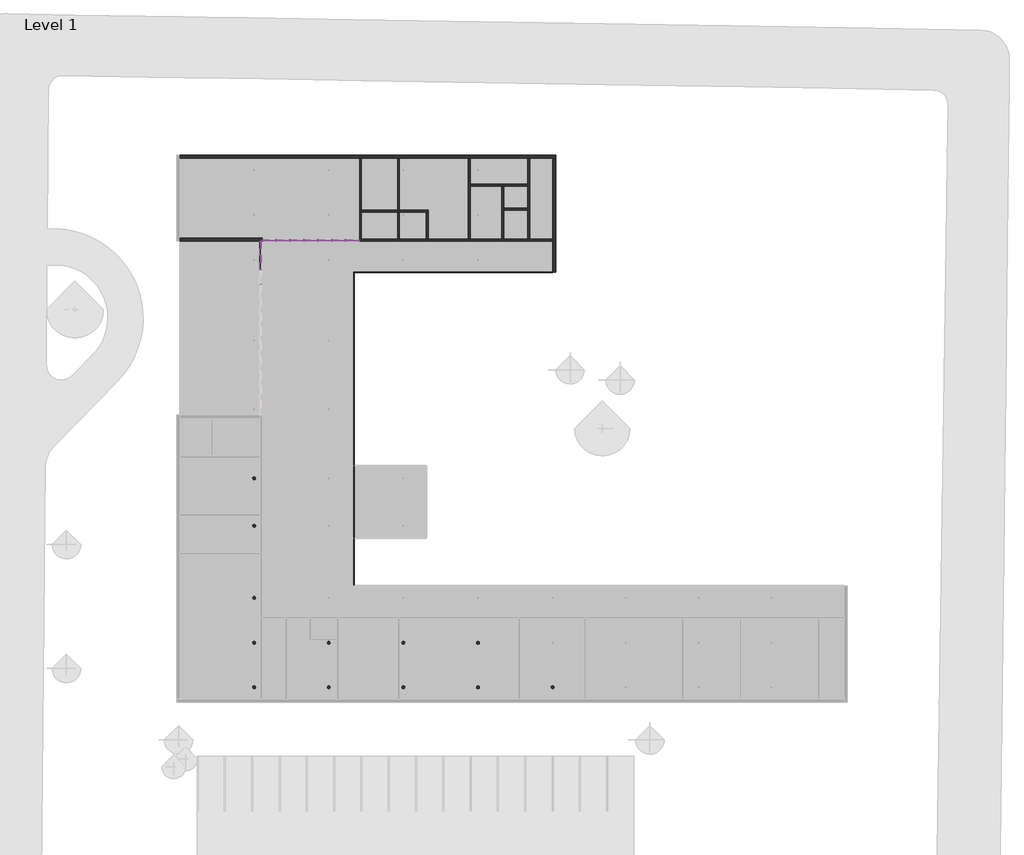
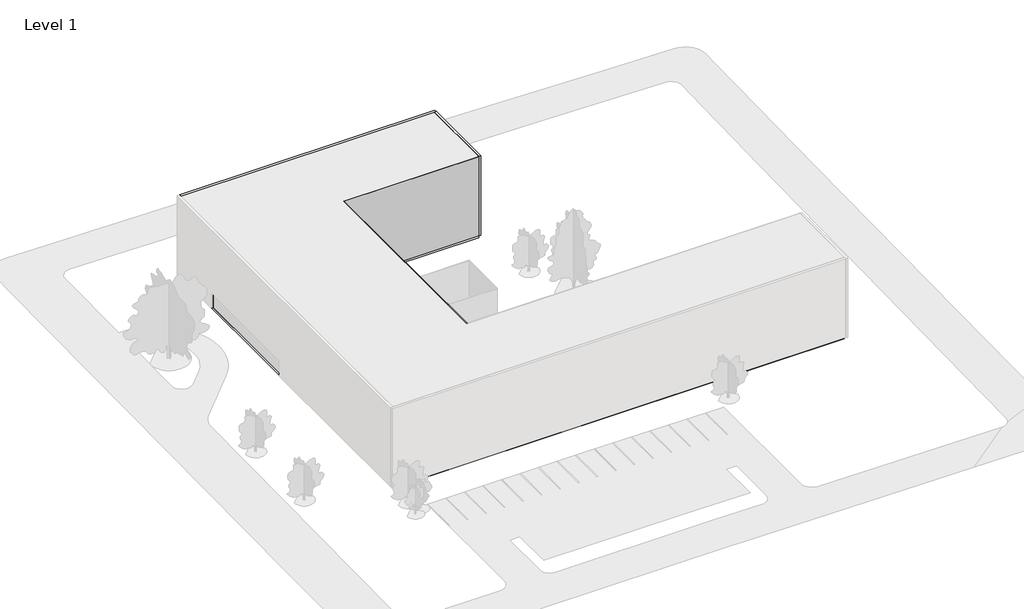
# One storey, part 2 of 3: 51 members, 20 plates, 13 walls, 12 columns, 1 slab.
"""IFC4 building model written with IfcOpenShell, lengths in millimetres."""

from ifc_helpers import new_model, si_unit, frame, origin, origin_with_axes, place, context, project, spatial, polyline, outline, extrude, faceted_brep, transform, mapped, element, save
from components import m_concrete_round_column_300mm_df790aaa, rectangular_mullion_50mm_x_150mm_6225e4e3, rectangular_mullion_50mm_x_150mm_163d5e45, rectangular_mullion_50mm_x_150mm_770ce294, rectangular_mullion_50mm_x_150mm_662c37b1, rectangular_mullion_50mm_x_150mm_758487db, rectangular_mullion_50mm_x_150mm_08a56cfe, rectangular_mullion_50mm_x_150mm_59c12ec9, rectangular_mullion_50mm_x_150mm_5efacfcf, rectangular_mullion_50mm_x_150mm_84fc3287, rectangular_mullion_50mm_x_150mm_b2cdd733, rectangular_mullion_50mm_x_150mm_142f5ab9, rectangular_mullion_50mm_x_150mm_39b046be, system_panel_glazed_2efde036, system_panel_glazed_952163be, system_panel_glazed_99e3e085, system_panel_glazed_d6c32529, system_panel_glazed_4e1d9d04, system_panel_glazed_46d9e1d9, system_panel_glazed_d581efc4, system_panel_glazed_ecd7ada4, system_panel_glazed_837bc370, system_panel_glazed_bcf29336

model = new_model("IFC4")

# Units and contexts
model_context = context("Model", 3, world=origin())
ifc_project = project(units=[si_unit("LENGTHUNIT", "METRE", prefix="MILLI")], contexts=[model_context])

# Site, building, storey
site = spatial("IfcSite", under=ifc_project)
building = spatial("IfcBuilding", under=site)
storey = spatial("IfcBuildingStorey", under=building, Name="Level 1", Elevation=0.0)

# Columns
placement = place(None, origin())
m_concrete_round_column_300mm_shape = m_concrete_round_column_300mm_df790aaa(model_context)
element("IfcColumn", 1, ObjectType="M_Concrete-Round-Column : 300mm", at=placement, inside=storey, context=model_context, shape_type="MappedRepresentation", body=[
    mapped(m_concrete_round_column_300mm_shape, transform((-2539.0909489, -1309.4607941, 0.0), x_axis=(-1.0, 0.0, 0.0), y_axis=(0.0, -1.0, 0.0), z_axis=(0.0, 0.0, 1.0))),
])
element("IfcColumn", 2, ObjectType="M_Concrete-Round-Column : 300mm", at=placement, inside=storey, context=model_context, shape_type="MappedRepresentation", body=[
    mapped(m_concrete_round_column_300mm_shape, transform((-2539.0909489, -6063.8611817, 0.0), x_axis=(-1.0, 0.0, 0.0), y_axis=(0.0, -1.0, 0.0), z_axis=(0.0, 0.0, 1.0))),
])
element("IfcColumn", 3, ObjectType="M_Concrete-Round-Column : 300mm", at=placement, inside=storey, context=model_context, shape_type="MappedRepresentation", body=[
    mapped(m_concrete_round_column_300mm_shape, transform((-2539.0909489, -17821.5310875, 0.0), x_axis=(-1.0, 0.0, 0.0), y_axis=(0.0, -1.0, 0.0), z_axis=(0.0, 0.0, 1.0))),
])
element("IfcColumn", 4, ObjectType="M_Concrete-Round-Column : 300mm", at=placement, inside=storey, context=model_context, shape_type="MappedRepresentation", body=[
    mapped(m_concrete_round_column_300mm_shape, transform((-2539.0909489, -13332.3615692, 0.0), x_axis=(-1.0, 0.0, 0.0), y_axis=(0.0, -1.0, 0.0), z_axis=(0.0, 0.0, 1.0))),
])
element("IfcColumn", 5, ObjectType="M_Concrete-Round-Column : 300mm", at=placement, inside=storey, context=model_context, shape_type="MappedRepresentation", body=[
    mapped(m_concrete_round_column_300mm_shape, transform((-2539.0909489, -22310.7006057, 0.0), x_axis=(-1.0, 0.0, 0.0), y_axis=(0.0, -1.0, 0.0), z_axis=(0.0, 0.0, 1.0))),
])
element("IfcColumn", 6, ObjectType="M_Concrete-Round-Column : 300mm", at=placement, inside=storey, context=model_context, shape_type="MappedRepresentation", body=[
    mapped(m_concrete_round_column_300mm_shape, transform((4948.6567657, -17821.5310875, 0.0), x_axis=(-1.0, 0.0, 0.0), y_axis=(0.0, -1.0, 0.0), z_axis=(0.0, 0.0, 1.0))),
])
element("IfcColumn", 7, ObjectType="M_Concrete-Round-Column : 300mm", at=placement, inside=storey, context=model_context, shape_type="MappedRepresentation", body=[
    mapped(m_concrete_round_column_300mm_shape, transform((4948.6567657, -22310.7006057, 0.0), x_axis=(-1.0, 0.0, 0.0), y_axis=(0.0, -1.0, 0.0), z_axis=(0.0, 0.0, 1.0))),
])
element("IfcColumn", 8, ObjectType="M_Concrete-Round-Column : 300mm", at=placement, inside=storey, context=model_context, shape_type="MappedRepresentation", body=[
    mapped(m_concrete_round_column_300mm_shape, transform((12436.4044804, -17821.5310875, 0.0), x_axis=(-1.0, 0.0, 0.0), y_axis=(0.0, -1.0, 0.0), z_axis=(0.0, 0.0, 1.0))),
])
element("IfcColumn", 9, ObjectType="M_Concrete-Round-Column : 300mm", at=placement, inside=storey, context=model_context, shape_type="MappedRepresentation", body=[
    mapped(m_concrete_round_column_300mm_shape, transform((12436.4044804, -22310.7006057, 0.0), x_axis=(-1.0, 0.0, 0.0), y_axis=(0.0, -1.0, 0.0), z_axis=(0.0, 0.0, 1.0))),
])
element("IfcColumn", 10, ObjectType="M_Concrete-Round-Column : 300mm", at=placement, inside=storey, context=model_context, shape_type="MappedRepresentation", body=[
    mapped(m_concrete_round_column_300mm_shape, transform((19924.152195, -17821.5310875, 0.0), x_axis=(-1.0, 0.0, 0.0), y_axis=(0.0, -1.0, 0.0), z_axis=(0.0, 0.0, 1.0))),
])
element("IfcColumn", 11, ObjectType="M_Concrete-Round-Column : 300mm", at=placement, inside=storey, context=model_context, shape_type="MappedRepresentation", body=[
    mapped(m_concrete_round_column_300mm_shape, transform((19924.152195, -22310.7006057, 0.0), x_axis=(-1.0, 0.0, 0.0), y_axis=(0.0, -1.0, 0.0), z_axis=(0.0, 0.0, 1.0))),
])
element("IfcColumn", 12, ObjectType="M_Concrete-Round-Column : 300mm", at=placement, inside=storey, context=model_context, shape_type="MappedRepresentation", body=[
    mapped(m_concrete_round_column_300mm_shape, transform((27411.8999097, -22310.7006057, 0.0), x_axis=(-1.0, 0.0, 0.0), y_axis=(0.0, -1.0, 0.0), z_axis=(0.0, 0.0, 1.0))),
])

# Members
rectangular_mullion_50mm_x_150mm_shape = rectangular_mullion_50mm_x_150mm_6225e4e3(model_context)
element("IfcMember", 13, ObjectType="Rectangular Mullion : 50mm x 150mm", at=placement, inside=storey, context=model_context, shape_type="MappedRepresentation", body=[
    mapped(rectangular_mullion_50mm_x_150mm_shape, transform((-1903.8386635, 21062.4133135, 0.0), x_axis=(0.0, -1.0, 0.0), y_axis=(-1.0, 0.0, 0.0), z_axis=(0.0, 0.0, -1.0))),
])
element("IfcMember", 14, ObjectType="Rectangular Mullion : 50mm x 150mm", at=placement, inside=storey, context=model_context, shape_type="MappedRepresentation", body=[
    mapped(rectangular_mullion_50mm_x_150mm_shape, transform((-1903.8386635, 19604.2466468, 0.0), x_axis=(0.0, -1.0, 0.0), y_axis=(-1.0, 0.0, 0.0), z_axis=(0.0, 0.0, -1.0))),
])
rectangular_mullion_50mm_x_150mm_2_shape = rectangular_mullion_50mm_x_150mm_163d5e45(model_context)
element("IfcMember", 15, ObjectType="Rectangular Mullion : 50mm x 150mm", at=placement, inside=storey, context=model_context, shape_type="MappedRepresentation", body=[
    mapped(rectangular_mullion_50mm_x_150mm_2_shape, transform((-1903.8386635, 21062.4133135, 2400.0), x_axis=(0.0, -1.0, 0.0), y_axis=(-1.0, 0.0, 0.0), z_axis=(0.0, 0.0, -1.0))),
])
element("IfcMember", 16, ObjectType="Rectangular Mullion : 50mm x 150mm", at=placement, inside=storey, context=model_context, shape_type="MappedRepresentation", body=[
    mapped(rectangular_mullion_50mm_x_150mm_2_shape, transform((-1903.8386635, 19604.2466468, 2400.0), x_axis=(0.0, -1.0, 0.0), y_axis=(-1.0, 0.0, 0.0), z_axis=(0.0, 0.0, -1.0))),
])
element("IfcMember", 17, ObjectType="Rectangular Mullion : 50mm x 150mm", at=placement, inside=storey, context=model_context, shape_type="MappedRepresentation", body=[
    mapped(rectangular_mullion_50mm_x_150mm_2_shape, transform((-1903.8386635, 18146.0799802, 2400.0), x_axis=(0.0, -1.0, 0.0), y_axis=(-1.0, 0.0, 0.0), z_axis=(0.0, 0.0, -1.0))),
])
rectangular_mullion_50mm_x_150mm_3_shape = rectangular_mullion_50mm_x_150mm_770ce294(model_context)
element("IfcMember", 18, ObjectType="Rectangular Mullion : 50mm x 150mm", at=placement, inside=storey, context=model_context, shape_type="MappedRepresentation", body=[
    mapped(rectangular_mullion_50mm_x_150mm_3_shape, transform((-1903.8386635, 22520.5799804, 3550.0), x_axis=(0.0, 1.0, 0.0), y_axis=(-1.0, 0.0, 0.0), z_axis=(0.0, 0.0, 1.0))),
])
rectangular_mullion_50mm_x_150mm_4_shape = rectangular_mullion_50mm_x_150mm_662c37b1(model_context)
element("IfcMember", 19, ObjectType="Rectangular Mullion : 50mm x 150mm", at=placement, inside=storey, context=model_context, shape_type="MappedRepresentation", body=[
    mapped(rectangular_mullion_50mm_x_150mm_4_shape, transform((-1903.8386635, 22520.5799804, 2400.0), x_axis=(0.0, 1.0, 0.0), y_axis=(-1.0, 0.0, 0.0), z_axis=(0.0, 0.0, 1.0))),
])
rectangular_mullion_50mm_x_150mm_5_shape = rectangular_mullion_50mm_x_150mm_758487db(model_context)
element("IfcMember", 20, ObjectType="Rectangular Mullion : 50mm x 150mm", at=placement, inside=storey, context=model_context, shape_type="MappedRepresentation", body=[
    mapped(rectangular_mullion_50mm_x_150mm_5_shape, transform((-1903.8386635, 21087.4133135, 3550.0), x_axis=(0.0, 0.0, 1.0), y_axis=(-1.0, 0.0, 0.0), z_axis=(0.0, -1.0, 0.0))),
])
element("IfcMember", 21, ObjectType="Rectangular Mullion : 50mm x 150mm", at=placement, inside=storey, context=model_context, shape_type="MappedRepresentation", body=[
    mapped(rectangular_mullion_50mm_x_150mm_5_shape, transform((-1903.8386635, 22470.5799804, 0.0), x_axis=(0.0, 0.0, -1.0), y_axis=(-1.0, 0.0, 0.0), z_axis=(0.0, 1.0, 0.0))),
])
rectangular_mullion_50mm_x_150mm_6_shape = rectangular_mullion_50mm_x_150mm_08a56cfe(model_context)
element("IfcMember", 22, ObjectType="Rectangular Mullion : 50mm x 150mm", at=placement, inside=storey, context=model_context, shape_type="MappedRepresentation", body=[
    mapped(rectangular_mullion_50mm_x_150mm_6_shape, transform((-1903.8386635, 19629.2466468, 3550.0), x_axis=(0.0, 0.0, 1.0), y_axis=(-1.0, 0.0, 0.0), z_axis=(0.0, -1.0, 0.0))),
])
element("IfcMember", 23, ObjectType="Rectangular Mullion : 50mm x 150mm", at=placement, inside=storey, context=model_context, shape_type="MappedRepresentation", body=[
    mapped(rectangular_mullion_50mm_x_150mm_6_shape, transform((-1903.8386635, 21037.4133135, 0.0), x_axis=(0.0, 0.0, -1.0), y_axis=(-1.0, 0.0, 0.0), z_axis=(0.0, 1.0, 0.0))),
])
element("IfcMember", 24, ObjectType="Rectangular Mullion : 50mm x 150mm", at=placement, inside=storey, context=model_context, shape_type="MappedRepresentation", body=[
    mapped(rectangular_mullion_50mm_x_150mm_6_shape, transform((-1903.8386635, 19579.2466468, 0.0), x_axis=(0.0, 0.0, -1.0), y_axis=(-1.0, 0.0, 0.0), z_axis=(0.0, 1.0, 0.0))),
])
rectangular_mullion_50mm_x_150mm_7_shape = rectangular_mullion_50mm_x_150mm_59c12ec9(model_context)
element("IfcMember", 25, ObjectType="Rectangular Mullion : 50mm x 150mm", at=placement, inside=storey, context=model_context, shape_type="MappedRepresentation", body=[
    mapped(rectangular_mullion_50mm_x_150mm_7_shape, transform((-1903.8386635, 21087.4133135, 2400.0), x_axis=(0.0, 0.0, 1.0), y_axis=(-1.0, 0.0, 0.0), z_axis=(0.0, -1.0, 0.0))),
])
rectangular_mullion_50mm_x_150mm_8_shape = rectangular_mullion_50mm_x_150mm_5efacfcf(model_context)
element("IfcMember", 26, ObjectType="Rectangular Mullion : 50mm x 150mm", at=placement, inside=storey, context=model_context, shape_type="MappedRepresentation", body=[
    mapped(rectangular_mullion_50mm_x_150mm_8_shape, transform((-1903.8386635, 19629.2466468, 2400.0), x_axis=(0.0, 0.0, 1.0), y_axis=(-1.0, 0.0, 0.0), z_axis=(0.0, -1.0, 0.0))),
])
rectangular_mullion_50mm_x_150mm_9_shape = rectangular_mullion_50mm_x_150mm_84fc3287(model_context)
element("IfcMember", 27, ObjectType="Rectangular Mullion : 50mm x 150mm", at=placement, inside=storey, context=model_context, shape_type="MappedRepresentation", body=[
    mapped(rectangular_mullion_50mm_x_150mm_9_shape, transform((-1678.8386635, 22595.5799804, 3550.0), x_axis=(0.0, 0.0, 1.0), y_axis=(0.0, 1.0, 0.0), z_axis=(-1.0, 0.0, 0.0))),
])
element("IfcMember", 28, ObjectType="Rectangular Mullion : 50mm x 150mm", at=placement, inside=storey, context=model_context, shape_type="MappedRepresentation", body=[
    mapped(rectangular_mullion_50mm_x_150mm_9_shape, transform((6675.8811099, 22595.5799804, 3550.0), x_axis=(0.0, 0.0, 1.0), y_axis=(0.0, 1.0, 0.0), z_axis=(-1.0, 0.0, 0.0))),
])
element("IfcMember", 29, ObjectType="Rectangular Mullion : 50mm x 150mm", at=placement, inside=storey, context=model_context, shape_type="MappedRepresentation", body=[
    mapped(rectangular_mullion_50mm_x_150mm_9_shape, transform((7997.5010724, 22595.5799804, 0.0), x_axis=(0.0, 0.0, -1.0), y_axis=(0.0, 1.0, 0.0), z_axis=(1.0, 0.0, 0.0))),
])
element("IfcMember", 30, ObjectType="Rectangular Mullion : 50mm x 150mm", at=placement, inside=storey, context=model_context, shape_type="MappedRepresentation", body=[
    mapped(rectangular_mullion_50mm_x_150mm_9_shape, transform((-357.218701, 22595.5799804, 0.0), x_axis=(0.0, 0.0, -1.0), y_axis=(0.0, 1.0, 0.0), z_axis=(1.0, 0.0, 0.0))),
])
rectangular_mullion_50mm_x_150mm_10_shape = rectangular_mullion_50mm_x_150mm_b2cdd733(model_context)
element("IfcMember", 31, ObjectType="Rectangular Mullion : 50mm x 150mm", at=placement, inside=storey, context=model_context, shape_type="MappedRepresentation", body=[
    mapped(rectangular_mullion_50mm_x_150mm_10_shape, transform((5279.2611477, 22595.5799804, 3550.0), x_axis=(0.0, 0.0, 1.0), y_axis=(0.0, 1.0, 0.0), z_axis=(-1.0, 0.0, 0.0))),
])
element("IfcMember", 32, ObjectType="Rectangular Mullion : 50mm x 150mm", at=placement, inside=storey, context=model_context, shape_type="MappedRepresentation", body=[
    mapped(rectangular_mullion_50mm_x_150mm_10_shape, transform((3882.6411855, 22595.5799804, 3550.0), x_axis=(0.0, 0.0, 1.0), y_axis=(0.0, 1.0, 0.0), z_axis=(-1.0, 0.0, 0.0))),
])
element("IfcMember", 33, ObjectType="Rectangular Mullion : 50mm x 150mm", at=placement, inside=storey, context=model_context, shape_type="MappedRepresentation", body=[
    mapped(rectangular_mullion_50mm_x_150mm_10_shape, transform((2486.0212233, 22595.5799804, 3550.0), x_axis=(0.0, 0.0, 1.0), y_axis=(0.0, 1.0, 0.0), z_axis=(-1.0, 0.0, 0.0))),
])
element("IfcMember", 34, ObjectType="Rectangular Mullion : 50mm x 150mm", at=placement, inside=storey, context=model_context, shape_type="MappedRepresentation", body=[
    mapped(rectangular_mullion_50mm_x_150mm_10_shape, transform((1089.4012611, 22595.5799804, 3550.0), x_axis=(0.0, 0.0, 1.0), y_axis=(0.0, 1.0, 0.0), z_axis=(-1.0, 0.0, 0.0))),
])
element("IfcMember", 35, ObjectType="Rectangular Mullion : 50mm x 150mm", at=placement, inside=storey, context=model_context, shape_type="MappedRepresentation", body=[
    mapped(rectangular_mullion_50mm_x_150mm_10_shape, transform((-307.218701, 22595.5799804, 3550.0), x_axis=(0.0, 0.0, 1.0), y_axis=(0.0, 1.0, 0.0), z_axis=(-1.0, 0.0, 0.0))),
])
element("IfcMember", 36, ObjectType="Rectangular Mullion : 50mm x 150mm", at=placement, inside=storey, context=model_context, shape_type="MappedRepresentation", body=[
    mapped(rectangular_mullion_50mm_x_150mm_10_shape, transform((6625.8811099, 22595.5799804, 0.0), x_axis=(0.0, 0.0, -1.0), y_axis=(0.0, 1.0, 0.0), z_axis=(1.0, 0.0, 0.0))),
])
element("IfcMember", 37, ObjectType="Rectangular Mullion : 50mm x 150mm", at=placement, inside=storey, context=model_context, shape_type="MappedRepresentation", body=[
    mapped(rectangular_mullion_50mm_x_150mm_10_shape, transform((5229.2611477, 22595.5799804, 0.0), x_axis=(0.0, 0.0, -1.0), y_axis=(0.0, 1.0, 0.0), z_axis=(1.0, 0.0, 0.0))),
])
element("IfcMember", 38, ObjectType="Rectangular Mullion : 50mm x 150mm", at=placement, inside=storey, context=model_context, shape_type="MappedRepresentation", body=[
    mapped(rectangular_mullion_50mm_x_150mm_10_shape, transform((3832.6411855, 22595.5799804, 0.0), x_axis=(0.0, 0.0, -1.0), y_axis=(0.0, 1.0, 0.0), z_axis=(1.0, 0.0, 0.0))),
])
element("IfcMember", 39, ObjectType="Rectangular Mullion : 50mm x 150mm", at=placement, inside=storey, context=model_context, shape_type="MappedRepresentation", body=[
    mapped(rectangular_mullion_50mm_x_150mm_10_shape, transform((2436.0212233, 22595.5799804, 0.0), x_axis=(0.0, 0.0, -1.0), y_axis=(0.0, 1.0, 0.0), z_axis=(1.0, 0.0, 0.0))),
])
element("IfcMember", 40, ObjectType="Rectangular Mullion : 50mm x 150mm", at=placement, inside=storey, context=model_context, shape_type="MappedRepresentation", body=[
    mapped(rectangular_mullion_50mm_x_150mm_10_shape, transform((1039.4012611, 22595.5799804, 0.0), x_axis=(0.0, 0.0, -1.0), y_axis=(0.0, 1.0, 0.0), z_axis=(1.0, 0.0, 0.0))),
])
rectangular_mullion_50mm_x_150mm_11_shape = rectangular_mullion_50mm_x_150mm_142f5ab9(model_context)
element("IfcMember", 41, ObjectType="Rectangular Mullion : 50mm x 150mm", at=placement, inside=storey, context=model_context, shape_type="MappedRepresentation", body=[
    mapped(rectangular_mullion_50mm_x_150mm_11_shape, transform((6675.8811099, 22595.5799804, 2400.0), x_axis=(0.0, 0.0, 1.0), y_axis=(0.0, 1.0, 0.0), z_axis=(-1.0, 0.0, 0.0))),
])
element("IfcMember", 42, ObjectType="Rectangular Mullion : 50mm x 150mm", at=placement, inside=storey, context=model_context, shape_type="MappedRepresentation", body=[
    mapped(rectangular_mullion_50mm_x_150mm_11_shape, transform((-1678.8386635, 22595.5799804, 2400.0), x_axis=(0.0, 0.0, 1.0), y_axis=(0.0, 1.0, 0.0), z_axis=(-1.0, 0.0, 0.0))),
])
rectangular_mullion_50mm_x_150mm_12_shape = rectangular_mullion_50mm_x_150mm_39b046be(model_context)
element("IfcMember", 43, ObjectType="Rectangular Mullion : 50mm x 150mm", at=placement, inside=storey, context=model_context, shape_type="MappedRepresentation", body=[
    mapped(rectangular_mullion_50mm_x_150mm_12_shape, transform((5279.2611477, 22595.5799804, 2400.0), x_axis=(0.0, 0.0, 1.0), y_axis=(0.0, 1.0, 0.0), z_axis=(-1.0, 0.0, 0.0))),
])
element("IfcMember", 44, ObjectType="Rectangular Mullion : 50mm x 150mm", at=placement, inside=storey, context=model_context, shape_type="MappedRepresentation", body=[
    mapped(rectangular_mullion_50mm_x_150mm_12_shape, transform((3882.6411855, 22595.5799804, 2400.0), x_axis=(0.0, 0.0, 1.0), y_axis=(0.0, 1.0, 0.0), z_axis=(-1.0, 0.0, 0.0))),
])
element("IfcMember", 45, ObjectType="Rectangular Mullion : 50mm x 150mm", at=placement, inside=storey, context=model_context, shape_type="MappedRepresentation", body=[
    mapped(rectangular_mullion_50mm_x_150mm_12_shape, transform((2486.0212233, 22595.5799804, 2400.0), x_axis=(0.0, 0.0, 1.0), y_axis=(0.0, 1.0, 0.0), z_axis=(-1.0, 0.0, 0.0))),
])
element("IfcMember", 46, ObjectType="Rectangular Mullion : 50mm x 150mm", at=placement, inside=storey, context=model_context, shape_type="MappedRepresentation", body=[
    mapped(rectangular_mullion_50mm_x_150mm_12_shape, transform((1089.4012611, 22595.5799804, 2400.0), x_axis=(0.0, 0.0, 1.0), y_axis=(0.0, 1.0, 0.0), z_axis=(-1.0, 0.0, 0.0))),
])
element("IfcMember", 47, ObjectType="Rectangular Mullion : 50mm x 150mm", at=placement, inside=storey, context=model_context, shape_type="MappedRepresentation", body=[
    mapped(rectangular_mullion_50mm_x_150mm_12_shape, transform((-307.218701, 22595.5799804, 2400.0), x_axis=(0.0, 0.0, 1.0), y_axis=(0.0, 1.0, 0.0), z_axis=(-1.0, 0.0, 0.0))),
])
element("IfcMember", 48, ObjectType="Rectangular Mullion : 50mm x 150mm", at=placement, inside=storey, context=model_context, shape_type="MappedRepresentation", body=[
    mapped(rectangular_mullion_50mm_x_150mm_shape, transform((6650.8811099, 22595.5799804, 0.0), x_axis=(-1.0, 0.0, 0.0), y_axis=(0.0, 1.0, 0.0), z_axis=(0.0, 0.0, -1.0))),
])
element("IfcMember", 49, ObjectType="Rectangular Mullion : 50mm x 150mm", at=placement, inside=storey, context=model_context, shape_type="MappedRepresentation", body=[
    mapped(rectangular_mullion_50mm_x_150mm_shape, transform((5254.2611477, 22595.5799804, 0.0), x_axis=(-1.0, 0.0, 0.0), y_axis=(0.0, 1.0, 0.0), z_axis=(0.0, 0.0, -1.0))),
])
element("IfcMember", 50, ObjectType="Rectangular Mullion : 50mm x 150mm", at=placement, inside=storey, context=model_context, shape_type="MappedRepresentation", body=[
    mapped(rectangular_mullion_50mm_x_150mm_shape, transform((3857.6411855, 22595.5799804, 0.0), x_axis=(-1.0, 0.0, 0.0), y_axis=(0.0, 1.0, 0.0), z_axis=(0.0, 0.0, -1.0))),
])
element("IfcMember", 51, ObjectType="Rectangular Mullion : 50mm x 150mm", at=placement, inside=storey, context=model_context, shape_type="MappedRepresentation", body=[
    mapped(rectangular_mullion_50mm_x_150mm_shape, transform((2461.0212233, 22595.5799804, 0.0), x_axis=(-1.0, 0.0, 0.0), y_axis=(0.0, 1.0, 0.0), z_axis=(0.0, 0.0, -1.0))),
])
element("IfcMember", 52, ObjectType="Rectangular Mullion : 50mm x 150mm", at=placement, inside=storey, context=model_context, shape_type="MappedRepresentation", body=[
    mapped(rectangular_mullion_50mm_x_150mm_shape, transform((1064.4012611, 22595.5799804, 0.0), x_axis=(-1.0, 0.0, 0.0), y_axis=(0.0, 1.0, 0.0), z_axis=(0.0, 0.0, -1.0))),
])
element("IfcMember", 53, ObjectType="Rectangular Mullion : 50mm x 150mm", at=placement, inside=storey, context=model_context, shape_type="MappedRepresentation", body=[
    mapped(rectangular_mullion_50mm_x_150mm_shape, transform((-332.218701, 22595.5799804, 0.0), x_axis=(-1.0, 0.0, 0.0), y_axis=(0.0, 1.0, 0.0), z_axis=(0.0, 0.0, -1.0))),
])
element("IfcMember", 54, ObjectType="Rectangular Mullion : 50mm x 150mm", at=placement, inside=storey, context=model_context, shape_type="MappedRepresentation", body=[
    mapped(rectangular_mullion_50mm_x_150mm_2_shape, transform((6650.8811099, 22595.5799804, 2400.0), x_axis=(-1.0, 0.0, 0.0), y_axis=(0.0, 1.0, 0.0), z_axis=(0.0, 0.0, -1.0))),
])
element("IfcMember", 55, ObjectType="Rectangular Mullion : 50mm x 150mm", at=placement, inside=storey, context=model_context, shape_type="MappedRepresentation", body=[
    mapped(rectangular_mullion_50mm_x_150mm_2_shape, transform((5254.2611477, 22595.5799804, 2400.0), x_axis=(-1.0, 0.0, 0.0), y_axis=(0.0, 1.0, 0.0), z_axis=(0.0, 0.0, -1.0))),
])
element("IfcMember", 56, ObjectType="Rectangular Mullion : 50mm x 150mm", at=placement, inside=storey, context=model_context, shape_type="MappedRepresentation", body=[
    mapped(rectangular_mullion_50mm_x_150mm_2_shape, transform((3857.6411855, 22595.5799804, 2400.0), x_axis=(-1.0, 0.0, 0.0), y_axis=(0.0, 1.0, 0.0), z_axis=(0.0, 0.0, -1.0))),
])
element("IfcMember", 57, ObjectType="Rectangular Mullion : 50mm x 150mm", at=placement, inside=storey, context=model_context, shape_type="MappedRepresentation", body=[
    mapped(rectangular_mullion_50mm_x_150mm_2_shape, transform((2461.0212233, 22595.5799804, 2400.0), x_axis=(-1.0, 0.0, 0.0), y_axis=(0.0, 1.0, 0.0), z_axis=(0.0, 0.0, -1.0))),
])
element("IfcMember", 58, ObjectType="Rectangular Mullion : 50mm x 150mm", at=placement, inside=storey, context=model_context, shape_type="MappedRepresentation", body=[
    mapped(rectangular_mullion_50mm_x_150mm_2_shape, transform((1064.4012611, 22595.5799804, 2400.0), x_axis=(-1.0, 0.0, 0.0), y_axis=(0.0, 1.0, 0.0), z_axis=(0.0, 0.0, -1.0))),
])
element("IfcMember", 59, ObjectType="Rectangular Mullion : 50mm x 150mm", at=placement, inside=storey, context=model_context, shape_type="MappedRepresentation", body=[
    mapped(rectangular_mullion_50mm_x_150mm_2_shape, transform((-332.218701, 22595.5799804, 2400.0), x_axis=(-1.0, 0.0, 0.0), y_axis=(0.0, 1.0, 0.0), z_axis=(0.0, 0.0, -1.0))),
])
element("IfcMember", 60, ObjectType="Rectangular Mullion : 50mm x 150mm", at=placement, inside=storey, context=model_context, shape_type="MappedRepresentation", body=[
    mapped(rectangular_mullion_50mm_x_150mm_4_shape, transform((-1728.8386635, 22595.5799804, 0.0), x_axis=(-1.0, 0.0, 0.0), y_axis=(0.0, 1.0, 0.0), z_axis=(0.0, 0.0, -1.0))),
])
element("IfcMember", 61, ObjectType="Rectangular Mullion : 50mm x 150mm", at=placement, inside=storey, context=model_context, shape_type="MappedRepresentation", body=[
    mapped(rectangular_mullion_50mm_x_150mm_3_shape, transform((8047.5010724, 22595.5799804, 3550.0), x_axis=(1.0, 0.0, 0.0), y_axis=(0.0, 1.0, 0.0), z_axis=(0.0, 0.0, 1.0))),
])
element("IfcMember", 62, ObjectType="Rectangular Mullion : 50mm x 150mm", at=placement, inside=storey, context=model_context, shape_type="MappedRepresentation", body=[
    mapped(rectangular_mullion_50mm_x_150mm_3_shape, transform((-1728.8386635, 22595.5799804, 2400.0), x_axis=(-1.0, 0.0, 0.0), y_axis=(0.0, 1.0, 0.0), z_axis=(0.0, 0.0, -1.0))),
])
element("IfcMember", 63, ObjectType="Rectangular Mullion : 50mm x 150mm", at=placement, inside=storey, context=model_context, shape_type="MappedRepresentation", body=[
    mapped(rectangular_mullion_50mm_x_150mm_4_shape, transform((8047.5010724, 22595.5799804, 2400.0), x_axis=(1.0, 0.0, 0.0), y_axis=(0.0, 1.0, 0.0), z_axis=(0.0, 0.0, 1.0))),
])

# Plates
system_panel_glazed_shape = system_panel_glazed_2efde036(model_context)
element("IfcPlate", 64, ObjectType="System Panel : Glazed", at=placement, inside=storey, context=model_context, shape_type="MappedRepresentation", body=[
    mapped(system_panel_glazed_shape, transform((7447.5010724, 3641.2388183, 0.0), x_axis=(0.0, 1.0, 0.0), y_axis=(-1.0, 0.0, 0.0), z_axis=(0.0, 0.0, 1.0))),
])
system_panel_glazed_2_shape = system_panel_glazed_952163be(model_context)
element("IfcPlate", 65, ObjectType="System Panel : Glazed", at=placement, inside=storey, context=model_context, shape_type="MappedRepresentation", body=[
    mapped(system_panel_glazed_2_shape, transform((17429.700491, 19414.8392059, 0.0), x_axis=(1.0, 0.0, 0.0), y_axis=(0.0, 1.0, 0.0), z_axis=(0.0, 0.0, 1.0))),
])
system_panel_glazed_3_shape = system_panel_glazed_99e3e085(model_context)
element("IfcPlate", 66, ObjectType="System Panel : Glazed", at=placement, inside=storey, context=model_context, shape_type="MappedRepresentation", body=[
    mapped(system_panel_glazed_3_shape, transform((-1903.8386635, 21778.9966469, 50.0), x_axis=(0.0, -1.0, 0.0), y_axis=(1.0, 0.0, 0.0), z_axis=(0.0, 0.0, 1.0))),
])
system_panel_glazed_4_shape = system_panel_glazed_d6c32529(model_context)
element("IfcPlate", 67, ObjectType="System Panel : Glazed", at=placement, inside=storey, context=model_context, shape_type="MappedRepresentation", body=[
    mapped(system_panel_glazed_4_shape, transform((-1903.8386635, 20333.3299802, 50.0), x_axis=(0.0, -1.0, 0.0), y_axis=(1.0, 0.0, 0.0), z_axis=(0.0, 0.0, 1.0))),
])
system_panel_glazed_5_shape = system_panel_glazed_4e1d9d04(model_context)
element("IfcPlate", 68, ObjectType="System Panel : Glazed", at=placement, inside=storey, context=model_context, shape_type="MappedRepresentation", body=[
    mapped(system_panel_glazed_5_shape, transform((-1903.8386635, 21778.9966469, 2425.0), x_axis=(0.0, -1.0, 0.0), y_axis=(1.0, 0.0, 0.0), z_axis=(0.0, 0.0, 1.0))),
])
system_panel_glazed_6_shape = system_panel_glazed_46d9e1d9(model_context)
element("IfcPlate", 69, ObjectType="System Panel : Glazed", at=placement, inside=storey, context=model_context, shape_type="MappedRepresentation", body=[
    mapped(system_panel_glazed_6_shape, transform((-1903.8386635, 20333.3299802, 2425.0), x_axis=(0.0, -1.0, 0.0), y_axis=(1.0, 0.0, 0.0), z_axis=(0.0, 0.0, 1.0))),
])
system_panel_glazed_7_shape = system_panel_glazed_d581efc4(model_context)
element("IfcPlate", 70, ObjectType="System Panel : Glazed", at=placement, inside=storey, context=model_context, shape_type="MappedRepresentation", body=[
    mapped(system_panel_glazed_7_shape, transform((7336.6910911, 22595.5799804, 50.0), x_axis=(-1.0, 0.0, 0.0), y_axis=(0.0, -1.0, 0.0), z_axis=(0.0, 0.0, 1.0))),
])
element("IfcPlate", 71, ObjectType="System Panel : Glazed", at=placement, inside=storey, context=model_context, shape_type="MappedRepresentation", body=[
    mapped(system_panel_glazed_7_shape, transform((-1018.0286823, 22595.5799804, 50.0), x_axis=(-1.0, 0.0, 0.0), y_axis=(0.0, -1.0, 0.0), z_axis=(0.0, 0.0, 1.0))),
])
system_panel_glazed_8_shape = system_panel_glazed_ecd7ada4(model_context)
element("IfcPlate", 72, ObjectType="System Panel : Glazed", at=placement, inside=storey, context=model_context, shape_type="MappedRepresentation", body=[
    mapped(system_panel_glazed_8_shape, transform((5952.5711288, 22595.5799804, 50.0), x_axis=(-1.0, 0.0, 0.0), y_axis=(0.0, -1.0, 0.0), z_axis=(0.0, 0.0, 1.0))),
])
element("IfcPlate", 73, ObjectType="System Panel : Glazed", at=placement, inside=storey, context=model_context, shape_type="MappedRepresentation", body=[
    mapped(system_panel_glazed_8_shape, transform((4555.9511666, 22595.5799804, 50.0), x_axis=(-1.0, 0.0, 0.0), y_axis=(0.0, -1.0, 0.0), z_axis=(0.0, 0.0, 1.0))),
])
element("IfcPlate", 74, ObjectType="System Panel : Glazed", at=placement, inside=storey, context=model_context, shape_type="MappedRepresentation", body=[
    mapped(system_panel_glazed_8_shape, transform((3159.3312044, 22595.5799804, 50.0), x_axis=(-1.0, 0.0, 0.0), y_axis=(0.0, -1.0, 0.0), z_axis=(0.0, 0.0, 1.0))),
])
element("IfcPlate", 75, ObjectType="System Panel : Glazed", at=placement, inside=storey, context=model_context, shape_type="MappedRepresentation", body=[
    mapped(system_panel_glazed_8_shape, transform((1762.7112422, 22595.5799804, 50.0), x_axis=(-1.0, 0.0, 0.0), y_axis=(0.0, -1.0, 0.0), z_axis=(0.0, 0.0, 1.0))),
])
element("IfcPlate", 76, ObjectType="System Panel : Glazed", at=placement, inside=storey, context=model_context, shape_type="MappedRepresentation", body=[
    mapped(system_panel_glazed_8_shape, transform((366.09128, 22595.5799804, 50.0), x_axis=(-1.0, 0.0, 0.0), y_axis=(0.0, -1.0, 0.0), z_axis=(0.0, 0.0, 1.0))),
])
system_panel_glazed_9_shape = system_panel_glazed_837bc370(model_context)
element("IfcPlate", 77, ObjectType="System Panel : Glazed", at=placement, inside=storey, context=model_context, shape_type="MappedRepresentation", body=[
    mapped(system_panel_glazed_9_shape, transform((7336.6910911, 22595.5799804, 2425.0), x_axis=(-1.0, 0.0, 0.0), y_axis=(0.0, -1.0, 0.0), z_axis=(0.0, 0.0, 1.0))),
])
element("IfcPlate", 78, ObjectType="System Panel : Glazed", at=placement, inside=storey, context=model_context, shape_type="MappedRepresentation", body=[
    mapped(system_panel_glazed_9_shape, transform((-1018.0286823, 22595.5799804, 2425.0), x_axis=(-1.0, 0.0, 0.0), y_axis=(0.0, -1.0, 0.0), z_axis=(0.0, 0.0, 1.0))),
])
system_panel_glazed_10_shape = system_panel_glazed_bcf29336(model_context)
element("IfcPlate", 79, ObjectType="System Panel : Glazed", at=placement, inside=storey, context=model_context, shape_type="MappedRepresentation", body=[
    mapped(system_panel_glazed_10_shape, transform((5952.5711288, 22595.5799804, 2425.0), x_axis=(-1.0, 0.0, 0.0), y_axis=(0.0, -1.0, 0.0), z_axis=(0.0, 0.0, 1.0))),
])
element("IfcPlate", 80, ObjectType="System Panel : Glazed", at=placement, inside=storey, context=model_context, shape_type="MappedRepresentation", body=[
    mapped(system_panel_glazed_10_shape, transform((4555.9511666, 22595.5799804, 2425.0), x_axis=(-1.0, 0.0, 0.0), y_axis=(0.0, -1.0, 0.0), z_axis=(0.0, 0.0, 1.0))),
])
element("IfcPlate", 81, ObjectType="System Panel : Glazed", at=placement, inside=storey, context=model_context, shape_type="MappedRepresentation", body=[
    mapped(system_panel_glazed_10_shape, transform((3159.3312044, 22595.5799804, 2425.0), x_axis=(-1.0, 0.0, 0.0), y_axis=(0.0, -1.0, 0.0), z_axis=(0.0, 0.0, 1.0))),
])
element("IfcPlate", 82, ObjectType="System Panel : Glazed", at=placement, inside=storey, context=model_context, shape_type="MappedRepresentation", body=[
    mapped(system_panel_glazed_10_shape, transform((1762.7112422, 22595.5799804, 2425.0), x_axis=(-1.0, 0.0, 0.0), y_axis=(0.0, -1.0, 0.0), z_axis=(0.0, 0.0, 1.0))),
])
element("IfcPlate", 83, ObjectType="System Panel : Glazed", at=placement, inside=storey, context=model_context, shape_type="MappedRepresentation", body=[
    mapped(system_panel_glazed_10_shape, transform((366.09128, 22595.5799804, 2425.0), x_axis=(-1.0, 0.0, 0.0), y_axis=(0.0, -1.0, 0.0), z_axis=(0.0, 0.0, 1.0))),
])

# Slab
element("IfcSlab", 84, ObjectType="Pad 1", at=placement, inside=storey, context=model_context, shape_type="SweptSolid", body=[
    extrude(outline(polyline([(27411.8999097, 30818.5799804), (27411.8999097, 19414.8392059), (7447.5010724, 19414.8392059), (7447.5010724, -89.4607941), (14709.0902051, -89.4607941), (14709.0902051, -7283.8611817), (7447.5010724, -7283.8611817), (7447.5010724, -12132.3615692), (56699.1173382, -12132.3615692), (56699.1173382, -23510.7006057), (-10026.8386635, -23510.7006057), (-10026.8386635, 30818.5799804), (27411.8999097, 30818.5799804)])), frame((0.0, 0.0, -304.8), z_axis=(0.0, 0.0, 1.0), x_axis=(1.0, 0.0, 0.0)), (0.0, 0.0, 1.0), 304.8),
])

# Walls
element("IfcWall", 85, ObjectType="P6 184mm - 1HR - ULC #W453", at=placement, inside=storey, context=model_context, shape_type="Brep", body=[
    faceted_brep([(27411.8999097, 22704.5799804, 0.0), (25101.8999097, 22704.5799804, 0.0), (24911.8999097, 22704.5799804, 0.0), (22490.8999097, 22704.5799804, 0.0), (22306.8999097, 22704.5799804, 0.0), (19131.5010724, 22704.5799804, 0.0), (18947.5010724, 22704.5799804, 0.0), (14915.5010724, 22704.5799804, 0.0), (14731.5010724, 22704.5799804, 0.0), (12031.5010724, 22704.5799804, 0.0), (11847.5010724, 22704.5799804, 0.0), (8231.5010724, 22704.5799804, 0.0), (8047.5010724, 22704.5799804, 0.0), (8047.5010724, 22704.5799804, 3550.0), (8231.5010724, 22704.5799804, 3550.0), (11847.5010724, 22704.5799804, 3550.0), (12031.5010724, 22704.5799804, 3550.0), (14731.5010724, 22704.5799804, 3550.0), (14915.5010724, 22704.5799804, 3550.0), (18947.5010724, 22704.5799804, 3550.0), (19131.5010724, 22704.5799804, 3550.0), (22306.8999097, 22704.5799804, 3550.0), (22490.8999097, 22704.5799804, 3550.0), (24911.8999097, 22704.5799804, 3550.0), (25101.8999097, 22704.5799804, 3550.0), (27411.8999097, 22704.5799804, 3550.0), (27411.8999097, 22520.5799804, 0.0), (27411.8999097, 22520.5799804, 3550.0), (8047.5010724, 22520.5799804, 3550.0), (8047.5010724, 22520.5799804, 0.0)], [[[0, 1, 2, 3, 4, 5, 6, 7, 8, 9, 10, 11, 12, 13, 14, 15, 16, 17, 18, 19, 20, 21, 22, 23, 24, 25]], [[26, 27, 28, 29]], [[12, 11, 10, 9, 8, 7, 6, 5, 4, 3, 2, 1, 0, 26, 29]], [[25, 24, 23, 22, 21, 20, 19, 18, 17, 16, 15, 14, 13, 28, 27]], [[0, 25, 27, 26]], [[13, 12, 29, 28]]]),
])
element("IfcWall", 86, ObjectType="P6 184mm - 1HR - ULC #W453", at=placement, inside=storey, context=model_context, shape_type="Brep", body=[
    faceted_brep([(8231.5010724, 22704.5799804, 0.0), (8231.5010724, 25428.5799804, 0.0), (8231.5010724, 25612.5799804, 0.0), (8231.5010724, 30818.5799804, 0.0), (8231.5010724, 30818.5799804, 3550.0), (8231.5010724, 25612.5799804, 3550.0), (8231.5010724, 25428.5799804, 3550.0), (8231.5010724, 22704.5799804, 3550.0), (8047.5010724, 22704.5799804, 0.0), (8047.5010724, 22704.5799804, 3550.0), (8047.5010724, 30818.5799804, 3550.0), (8047.5010724, 30818.5799804, 0.0)], [[[0, 1, 2, 3, 4, 5, 6, 7]], [[8, 9, 10, 11]], [[3, 2, 1, 0, 8, 11]], [[7, 6, 5, 4, 10, 9]], [[4, 3, 11, 10]], [[0, 7, 9, 8]]]),
])
element("IfcWall", 87, ObjectType="P6 184mm - 1HR - ULC #W453", at=placement, inside=storey, context=model_context, shape_type="Brep", body=[
    faceted_brep([(19131.5010724, 22704.5799804, 0.0), (19131.5010724, 28036.5799804, 0.0), (19131.5010724, 28220.5799804, 0.0), (19131.5010724, 30818.5799804, 0.0), (19131.5010724, 30818.5799804, 3550.0), (19131.5010724, 28220.5799804, 3550.0), (19131.5010724, 28036.5799804, 3550.0), (19131.5010724, 22704.5799804, 3550.0), (18947.5010724, 22704.5799804, 0.0), (18947.5010724, 22704.5799804, 3550.0), (18947.5010724, 30818.5799804, 3550.0), (18947.5010724, 30818.5799804, 0.0)], [[[0, 1, 2, 3, 4, 5, 6, 7]], [[8, 9, 10, 11]], [[3, 2, 1, 0, 8, 11]], [[7, 6, 5, 4, 10, 9]], [[4, 3, 11, 10]], [[0, 7, 9, 8]]]),
])
element("IfcWall", 88, ObjectType="P6 184mm - 1HR - ULC #W453", at=placement, inside=storey, context=model_context, shape_type="Brep", body=[
    faceted_brep([(12031.5010724, 22704.5799804, 0.0), (12031.5010724, 25428.5799804, 0.0), (12031.5010724, 25612.5799804, 0.0), (12031.5010724, 30818.5799804, 0.0), (12031.5010724, 30818.5799804, 3550.0), (12031.5010724, 25612.5799804, 3550.0), (12031.5010724, 25428.5799804, 3550.0), (12031.5010724, 22704.5799804, 3550.0), (11847.5010724, 22704.5799804, 0.0), (11847.5010724, 22704.5799804, 3550.0), (11847.5010724, 25428.5799804, 3550.0), (11847.5010724, 25612.5799804, 3550.0), (11847.5010724, 30818.5799804, 3550.0), (11847.5010724, 30818.5799804, 0.0), (11847.5010724, 25612.5799804, 0.0), (11847.5010724, 25428.5799804, 0.0)], [[[0, 1, 2, 3, 4, 5, 6, 7]], [[8, 9, 10, 11, 12, 13, 14, 15]], [[3, 2, 1, 0, 8, 15, 14, 13]], [[7, 6, 5, 4, 12, 11, 10, 9]], [[4, 3, 13, 12]], [[0, 7, 9, 8]]]),
])
element("IfcWall", 89, ObjectType="P6 184mm - 1HR - ULC #W453", at=placement, inside=storey, context=model_context, shape_type="Brep", body=[
    faceted_brep([(8231.5010724, 25428.5799804, 3550.0), (8231.5010724, 25428.5799804, 0.0), (11847.5010724, 25428.5799804, 0.0), (11847.5010724, 25428.5799804, 3550.0), (8231.5010724, 25612.5799804, 0.0), (8231.5010724, 25612.5799804, 3550.0), (11847.5010724, 25612.5799804, 3550.0), (11847.5010724, 25612.5799804, 0.0)], [[[0, 1, 2, 3]], [[4, 5, 6, 7]], [[1, 4, 7, 2]], [[5, 0, 3, 6]], [[1, 0, 5, 4]], [[3, 2, 7, 6]]]),
    faceted_brep([(14915.5010724, 25428.5799804, 0.0), (14915.5010724, 25428.5799804, 3550.0), (14731.5010724, 25428.5799804, 3550.0), (12031.5010724, 25428.5799804, 3550.0), (12031.5010724, 25428.5799804, 0.0), (14731.5010724, 25428.5799804, 0.0), (14915.5010724, 25612.5799804, 3550.0), (14915.5010724, 25612.5799804, 0.0), (12031.5010724, 25612.5799804, 0.0), (12031.5010724, 25612.5799804, 3550.0)], [[[0, 1, 2, 3, 4, 5]], [[6, 7, 8, 9]], [[7, 0, 5, 4, 8]], [[1, 6, 9, 3, 2]], [[4, 3, 9, 8]], [[1, 0, 7, 6]]]),
])
element("IfcWall", 90, ObjectType="P6 184mm - 1HR - ULC #W453", at=placement, inside=storey, context=model_context, shape_type="SweptSolid", body=[
    extrude(outline(polyline([(14915.5010724, 25428.5799804), (14915.5010724, 22704.5799804), (14731.5010724, 22704.5799804), (14731.5010724, 25428.5799804), (14915.5010724, 25428.5799804)])), origin_with_axes(), (0.0, 0.0, 1.0), 3550.0),
])
element("IfcWall", 91, ObjectType="P6 184mm - 1HR - ULC #W453", at=placement, inside=storey, context=model_context, shape_type="Brep", body=[
    faceted_brep([(19131.5010724, 28036.5799804, 0.0), (22306.8999097, 28036.5799804, 0.0), (22490.8999097, 28036.5799804, 0.0), (24911.8999097, 28036.5799804, 0.0), (24911.8999097, 28036.5799804, 3550.0), (22490.8999097, 28036.5799804, 3550.0), (22306.8999097, 28036.5799804, 3550.0), (19131.5010724, 28036.5799804, 3550.0), (19131.5010724, 28220.5799804, 0.0), (19131.5010724, 28220.5799804, 3550.0), (24911.8999097, 28220.5799804, 3550.0), (24911.8999097, 28220.5799804, 0.0)], [[[0, 1, 2, 3, 4, 5, 6, 7]], [[8, 9, 10, 11]], [[3, 2, 1, 0, 8, 11]], [[7, 6, 5, 4, 10, 9]], [[0, 7, 9, 8]], [[4, 3, 11, 10]]]),
])
element("IfcWall", 92, ObjectType="P6 184mm - 1HR - ULC #W453", at=placement, inside=storey, context=model_context, shape_type="Brep", body=[
    faceted_brep([(22306.8999097, 28036.5799804, 0.0), (22306.8999097, 22704.5799804, 0.0), (22306.8999097, 22704.5799804, 3550.0), (22306.8999097, 28036.5799804, 3550.0), (22490.8999097, 28036.5799804, 0.0), (22490.8999097, 28036.5799804, 3550.0), (22490.8999097, 25796.5799804, 3550.0), (22490.8999097, 25612.5799804, 3550.0), (22490.8999097, 22704.5799804, 3550.0), (22490.8999097, 22704.5799804, 0.0), (22490.8999097, 25612.5799804, 0.0), (22490.8999097, 25796.5799804, 0.0)], [[[0, 1, 2, 3]], [[4, 5, 6, 7, 8, 9, 10, 11]], [[1, 0, 4, 11, 10, 9]], [[3, 2, 8, 7, 6, 5]], [[0, 3, 5, 4]], [[2, 1, 9, 8]]]),
])
element("IfcWall", 93, ObjectType="P6 184mm - 1HR - ULC #W453", at=placement, inside=storey, context=model_context, shape_type="SweptSolid", body=[
    extrude(outline(polyline([(22490.8999097, 25796.5799804), (24911.8999097, 25796.5799804), (24911.8999097, 25612.5799804), (22490.8999097, 25612.5799804), (22490.8999097, 25796.5799804)])), origin_with_axes(), (0.0, 0.0, 1.0), 3550.0),
])
element("IfcWall", 94, ObjectType="Exterior - EIFS on Mtl Stud", at=placement, inside=storey, context=model_context, shape_type="Brep", body=[
    faceted_brep([(27713.8999097, 31120.5799804, 0.0), (-10026.8386635, 31120.5799804, 0.0), (-10026.8386635, 31120.5799804, 12400.0), (27713.8999097, 31120.5799804, 12400.0), (27713.8999097, 30818.5799804, 0.0), (27713.8999097, 30818.5799804, 12400.0), (27411.8999097, 30818.5799804, 12400.0), (-10026.8386635, 30818.5799804, 12400.0), (-10026.8386635, 30818.5799804, 0.0), (8047.5010724, 30818.5799804, 0.0), (8231.5010724, 30818.5799804, 0.0), (11847.5010724, 30818.5799804, 0.0), (12031.5010724, 30818.5799804, 0.0), (18947.5010724, 30818.5799804, 0.0), (19131.5010724, 30818.5799804, 0.0), (24911.8999097, 30818.5799804, 0.0), (25101.8999097, 30818.5799804, 0.0), (27411.8999097, 30818.5799804, 0.0)], [[[0, 1, 2, 3]], [[4, 5, 6, 7, 8, 9, 10, 11, 12, 13, 14, 15, 16, 17]], [[1, 0, 4, 17, 16, 15, 14, 13, 12, 11, 10, 9, 8]], [[3, 2, 7, 6, 5]], [[2, 1, 8, 7]], [[0, 3, 5, 4]]]),
])
element("IfcWall", 95, ObjectType="Exterior - EIFS on Mtl Stud", at=placement, inside=storey, context=model_context, shape_type="Brep", body=[
    faceted_brep([(27713.8999097, 19414.8392059, 0.0), (27713.8999097, 30818.5799804, 0.0), (27713.8999097, 30818.5799804, 12400.0), (27713.8999097, 19414.8392059, 12400.0), (27411.8999097, 19414.8392059, 0.0), (27411.8999097, 19414.8392059, 12400.0), (27411.8999097, 30818.5799804, 12400.0), (27411.8999097, 30818.5799804, 0.0), (27411.8999097, 22704.5799804, 0.0), (27411.8999097, 22520.5799804, 0.0)], [[[0, 1, 2, 3]], [[4, 5, 6, 7, 8, 9]], [[1, 0, 4, 9, 8, 7]], [[3, 2, 6, 5]], [[0, 3, 5, 4]], [[2, 1, 7, 6]]]),
])
element("IfcWall", 96, ObjectType="Exterior - EIFS on Mtl Stud", at=placement, inside=storey, context=model_context, shape_type="Brep", body=[
    faceted_brep([(-1728.8386635, 22822.5799804, 0.0), (-10026.8386635, 22822.5799804, 0.0), (-10026.8386635, 22822.5799804, 3550.0), (-1728.8386635, 22822.5799804, 3550.0), (-1728.8386635, 22520.5799804, 0.0), (-1728.8386635, 22520.5799804, 3550.0), (-10026.8386635, 22520.5799804, 3550.0), (-10026.8386635, 22520.5799804, 2438.4), (-10026.8386635, 22520.5799804, 0.0)], [[[0, 1, 2, 3]], [[4, 5, 6, 7, 8]], [[1, 0, 4, 8]], [[3, 2, 6, 5]], [[0, 3, 5, 4]], [[2, 1, 8, 7, 6]]]),
])
element("IfcWall", 97, ObjectType="P28 190mm CMU 2 HR", at=placement, inside=storey, context=model_context, shape_type="Brep", body=[
    faceted_brep([(24911.8999097, 30818.5799804, 0.0), (24911.8999097, 28220.5799804, 0.0), (24911.8999097, 28036.5799804, 0.0), (24911.8999097, 25796.5799804, 0.0), (24911.8999097, 25612.5799804, 0.0), (24911.8999097, 22704.5799804, 0.0), (24911.8999097, 22704.5799804, 3550.0), (24911.8999097, 25612.5799804, 3550.0), (24911.8999097, 25796.5799804, 3550.0), (24911.8999097, 28036.5799804, 3550.0), (24911.8999097, 28220.5799804, 3550.0), (24911.8999097, 30818.5799804, 3550.0), (25101.8999097, 30818.5799804, 0.0), (25101.8999097, 30818.5799804, 3550.0), (25101.8999097, 22704.5799804, 3550.0), (25101.8999097, 22704.5799804, 0.0)], [[[0, 1, 2, 3, 4, 5, 6, 7, 8, 9, 10, 11]], [[12, 13, 14, 15]], [[5, 4, 3, 2, 1, 0, 12, 15]], [[11, 10, 9, 8, 7, 6, 14, 13]], [[0, 11, 13, 12]], [[6, 5, 15, 14]]]),
])

save(model, "model.ifc")
